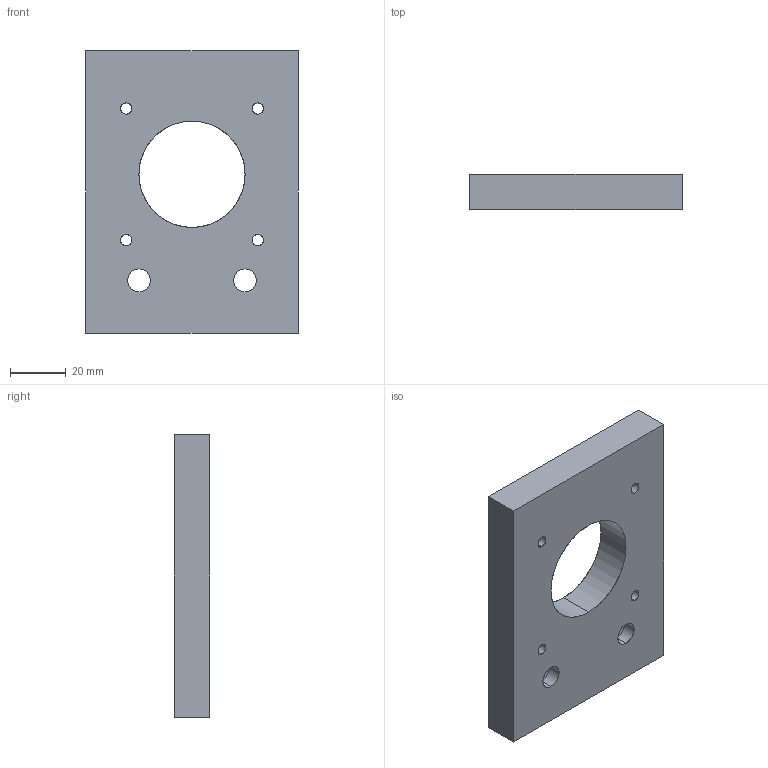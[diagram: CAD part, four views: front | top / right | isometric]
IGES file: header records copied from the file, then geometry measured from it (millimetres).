
Start section: SolidWorks IGES file using analytic representation for surfaces
Global section: file name: E:\Projects\Business\Libraries\SolidWorks\parts\Leadscrew Drive Systems\NEMA 23 Motor Mount (904 001).IGS; native system: SolidWorks 2014; preprocessor: SolidWorks 2014; author: nate; date: 160430.223006; units: inch
Bounding box: 76.2 x 12.7 x 101.6 mm (x, y, z)
Surface area: 20470.2 mm2 (no closed solid volume)
Topology: 0 solids, 0 shells, 34 faces, 768 edges, 768 vertices
Faces by surface type: revolution 26, bspline 8
